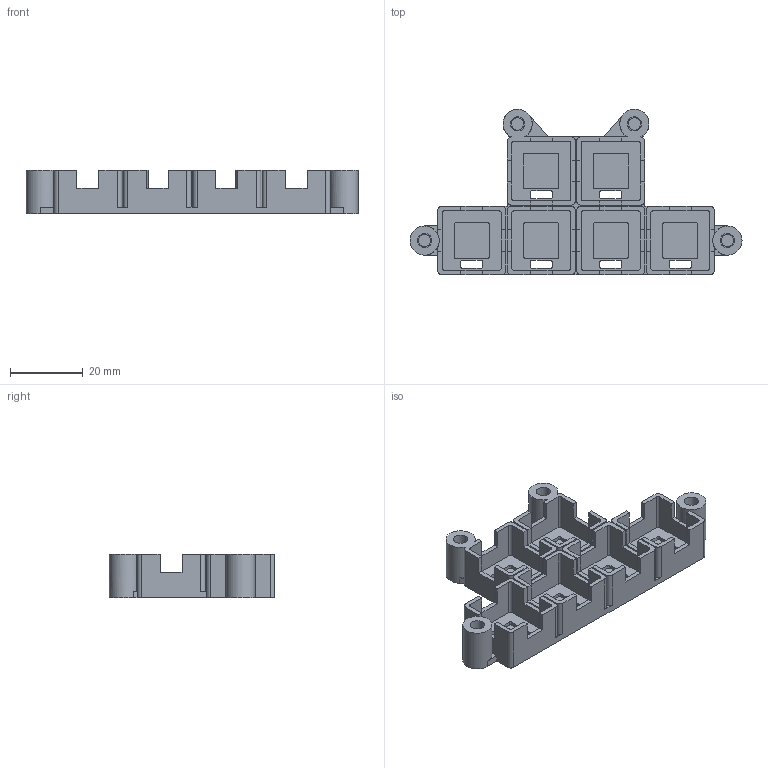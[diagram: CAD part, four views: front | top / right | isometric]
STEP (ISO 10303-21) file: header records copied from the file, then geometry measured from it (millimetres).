
FILE_DESCRIPTION(('Open CASCADE Model'),'2;1');
FILE_NAME('Open CASCADE Shape Model','2026-09-14T21:26:12',('Author'),( 'Open CASCADE'),'Open CASCADE STEP processor 7.9','Open CASCADE 7.9' ,'Unknown');
FILE_SCHEMA(('AUTOMOTIVE_DESIGN { 1 0 10303 214 1 1 1 1 }'));
Length unit declared in the file: millimetre
Products named in the file (1): Open CASCADE STEP translator 7.9 4
Bounding box: 91 x 45.32 x 12 mm (x, y, z)
Volume: 9538.3 mm3; surface area: 13767.5 mm2
Topology: 1 solids, 1 shells, 339 faces, 969 edges, 646 vertices
Faces by surface type: plane 230, cylinder 109
Full cylindrical faces by diameter (mm): 3.4 x4, 3.9 x4, 8 x1
Entity records: 23263 total; most frequent: CARTESIAN_POINT 4874, DIRECTION 3148, ORIENTED_EDGE 1938, PCURVE 1938, DEFINITIONAL_REPRESENTATION 1938, LINE 1836, VECTOR 1836, EDGE_CURVE 969
